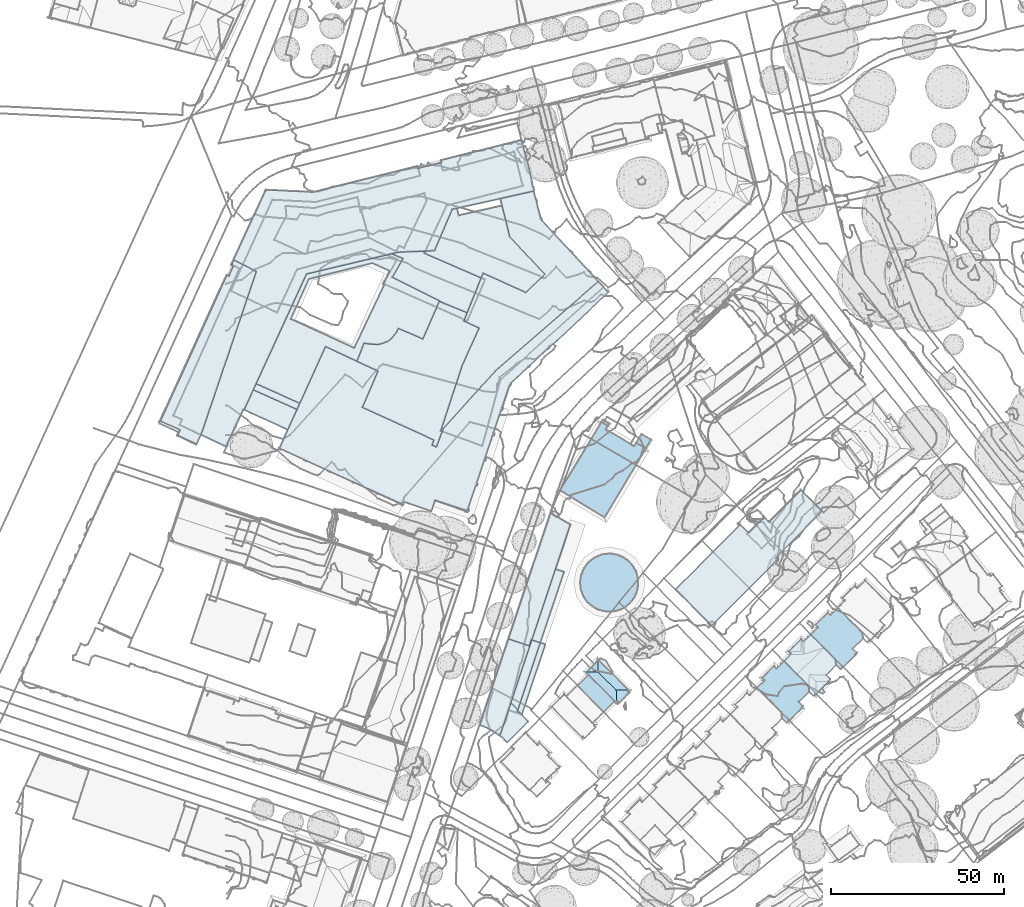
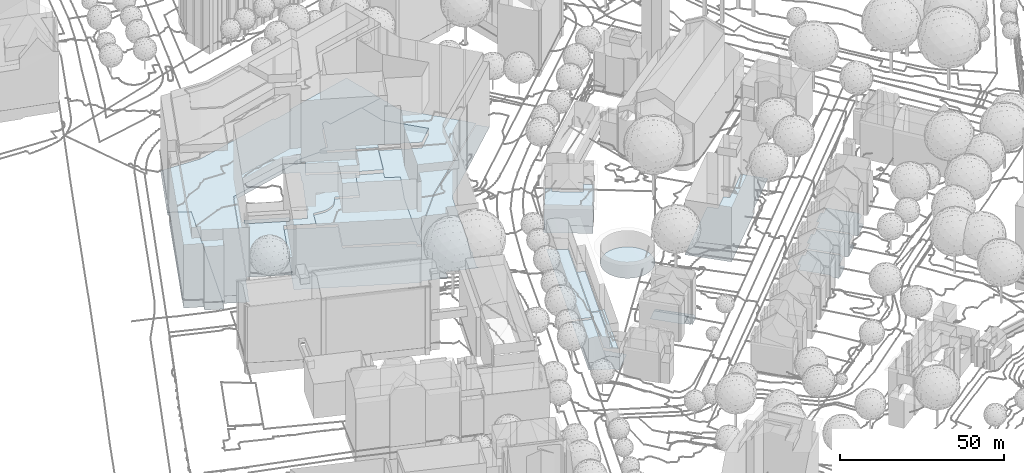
# Not in any storey, part 3 of 477: 9 footings.
"""IFC4 building model written with IfcOpenShell, lengths in metres."""

from ifc_helpers import new_model, si_unit, frame, origin_with_axes, place, context, subcontext, project, spatial, polygons, element, save


model = new_model("IFC4")

# Units and contexts
model_context = context("Model", 3, precision=1e-05, world=origin_with_axes())
body_context = subcontext(model_context, "Body", "Model", "MODEL_VIEW")
ifc_project = project(units=[si_unit("AREAUNIT", "SQUARE_METRE"), si_unit("LENGTHUNIT", "METRE")], contexts=[model_context])

# Sites, building
site_1_placement = place(None, origin_with_axes())
site_1 = spatial("IfcSite", under=ifc_project, at=site_1_placement, Name="Topoexport Site")
site_2_placement = place(site_1_placement, origin_with_axes())
site_2 = spatial("IfcSite", under=site_1, at=site_2_placement, Name="TPX_BUILDINGS")
building_1_placement = place(site_2_placement, frame((129.1307320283, 172.8855160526, 527.2133), z_axis=(0.0, 0.0, 1.0), x_axis=(1.0, 0.0, 0.0)))
building_1 = spatial("IfcBuilding", under=site_2, at=building_1_placement, Name="Building 41", CompositionType="ELEMENT")

# Footing
footing_1_placement = place(None, frame((129.1307320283, 172.8855160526, 527.2133), z_axis=(0.0, 0.0, 1.0), x_axis=(1.0, 0.0, 0.0)))
element("IfcFooting", 1, at=footing_1_placement, inside=building_1, Name="Floor 0", context=body_context, shape_type="Tessellation", body=[
    polygons([(27.1359999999, 19.4952000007, 0.0), (36.2619999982, 28.6290000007, 0.0), (42.3549999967, 22.5430000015, 0.0), (29.0059999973, 9.183600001, 0.0), (29.5369999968, 8.6513999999, 0.0), (29.1419999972, 8.2696000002, 0.0), (21.2709999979, 16.4589999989, 0.0), (26.9079999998, 19.6407000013, 0.0), (25.682, 20.875, 0.0), (26.9489999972, 19.6816999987, 0.0), (10.4670000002, -10.4569999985, 0.0), (29.1589999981, 8.2520000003, 0.0), (0.0, 0.0, 0.0), (18.7049999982, 18.7236999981, 0.0), (21.0179999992, 16.3916999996, 0.0), (21.1789999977, 16.5507999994, 0.0)], [[[1, 2, 3]], [[3, 4, 1]], [[5, 6, 4]], [[1, 7, 8]], [[9, 8, 7]], [[8, 10, 1]], [[1, 4, 7]], [[11, 7, 4]], [[6, 11, 4]], [[11, 6, 12]], [[11, 13, 7]], [[13, 14, 15]], [[15, 7, 13]], [[7, 15, 16]]]),
])

# Building
building_2_placement = place(site_2_placement, frame((168.236732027, 159.8387160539, 531.4768), z_axis=(0.0, 0.0, 1.0), x_axis=(1.0, 0.0, 0.0)))
building_2 = spatial("IfcBuilding", under=site_2, at=building_2_placement, Name="Building 76", CompositionType="ELEMENT")

# Footing
footing_2_placement = place(None, frame((168.236732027, 159.8387160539, 531.4768), z_axis=(0.0, 0.0, 1.0), x_axis=(1.0, 0.0, 0.0)))
element("IfcFooting", 2, at=footing_2_placement, inside=building_2, Name="Floor 0", context=body_context, shape_type="Tessellation", body=[
    polygons([(5.688000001, 5.6512999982, 0.0), (5.7349999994, 5.6981999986, 0.0), (15.1840000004, -1.0703000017, 0.0), (12.1510000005, -4.0655000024, 0.0), (4.9710000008, 6.3729999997, 0.0), (2.1400000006, 2.1268999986, 0.0), (1.4529999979, 2.8192999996, 0.0), (1.3990000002, 2.873999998, 0.0), (2.0170000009, 2.0048999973, 0.0), (3.7619999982, -3.8115000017, 0.0), (0.824000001, 0.8192999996, 0.0), (0.0, 0.0, 0.0), (11.4100000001, -7.4043000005, 0.0), (2.0579999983, 2.0449000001, 0.0), (7.7809999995, 7.7303999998, 0.0), (11.5669999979, 3.8954999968, 0.0), (14.8770000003, 0.5409999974, 0.0), (12.8709999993, -5.7432000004, 0.0), (12.9759999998, -5.8487000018, 0.0), (13.3440000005, -5.2735000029, 0.0), (7.0720000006, -7.1641000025, 0.0), (9.0819999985, -9.505900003, 0.0), (7.3669999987, -8.7871000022, 0.0), (9.4109999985, -9.3877000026, 0.0), (9.1860000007, -9.6123000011, 0.0), (8.574000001, -10.009800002, 0.0)], [[[1, 2, 3]], [[1, 4, 5]], [[6, 7, 5]], [[6, 5, 4]], [[8, 5, 7]], [[9, 10, 11]], [[12, 11, 10]], [[13, 9, 14]], [[6, 13, 14]], [[2, 15, 16]], [[17, 3, 16]], [[1, 3, 4]], [[6, 4, 13]], [[13, 4, 18]], [[18, 19, 13]], [[18, 4, 20]], [[13, 10, 9]], [[21, 10, 13]], [[22, 23, 21]], [[24, 25, 22]], [[22, 21, 24]], [[26, 23, 22]], [[21, 13, 24]], [[16, 3, 2]]]),
])

# Building
building_3_placement = place(site_2_placement, frame((152.792732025, 144.4969160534, 530.4589), z_axis=(0.0, 0.0, 1.0), x_axis=(1.0, 0.0, 0.0)))
building_3 = spatial("IfcBuilding", under=site_2, at=building_3_placement, Name="Building 77", CompositionType="ELEMENT")

# Footing
footing_3_placement = place(None, frame((152.792732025, 144.4969160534, 530.4589), z_axis=(0.0, 0.0, 1.0), x_axis=(1.0, 0.0, 0.0)))
element("IfcFooting", 3, at=footing_3_placement, inside=building_3, Name="Floor 0", context=body_context, shape_type="Tessellation", body=[
    polygons([(6.9670000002, 6.9208999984, 0.0), (7.7600000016, 7.7080000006, 0.0), (11.4990000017, 3.9199000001, 0.0), (5.5789999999, 5.5409999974, 0.0), (11.9930000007, -4.1270000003, 0.0), (2.0360000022, 2.0214999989, 0.0), (4.8600000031, 6.2635999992, 0.0), (1.4649999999, 2.8827999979, 0.0), (1.9040000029, 2.1543000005, 0.0), (1.3220000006, 2.7412, 0.0), (0.0, 0.0, 0.0), (3.7160000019, -3.7655999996, 0.0), (15.0250000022, -1.134800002, 0.0), (14.8100000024, 0.5673999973, 0.0), (13.2320000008, -5.3819000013, 0.0), (12.7850000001, -5.8262000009, 0.0), (7.0250000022, -7.1172000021, 0.0), (12.8900000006, -5.9326000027, 0.0), (12.7840000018, -6.0371000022, 0.0), (9.3020000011, -9.4970999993, 0.0), (8.9810000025, -9.6044999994, 0.0), (7.0860000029, -8.1914000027, 0.0), (7.2149999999, -8.8447000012, 0.0), (8.4680000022, -10.1132999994, 0.0), (9.0870000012, -9.7109999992, 0.0)], [[[1, 2, 3]], [[1, 3, 4]], [[5, 6, 4]], [[7, 6, 8]], [[8, 9, 10]], [[9, 8, 6]], [[11, 6, 12]], [[4, 6, 7]], [[5, 12, 6]], [[3, 5, 4]], [[13, 5, 14]], [[15, 16, 5]], [[17, 12, 5]], [[18, 19, 16]], [[5, 16, 19]], [[19, 17, 5]], [[20, 21, 22]], [[22, 17, 20]], [[22, 21, 23]], [[24, 23, 21]], [[21, 20, 25]], [[19, 20, 17]], [[3, 14, 5]]]),
])

# Building
building_4_placement = place(site_2_placement, frame((95.7557320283, 201.4705160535, 529.7781), z_axis=(0.0, 0.0, 1.0), x_axis=(1.0, 0.0, 0.0)))
building_4 = spatial("IfcBuilding", under=site_2, at=building_4_placement, Name="Building 138", CompositionType="ELEMENT")

# Footing
footing_4_placement = place(None, frame((95.7557320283, 201.4705160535, 529.7781), z_axis=(0.0, 0.0, 1.0), x_axis=(1.0, 0.0, 0.0)))
element("IfcFooting", 4, at=footing_4_placement, inside=building_4, Name="Floor 0", context=body_context, shape_type="Tessellation", body=[
    polygons([(14.1559999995, 19.2773999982, 0.0), (13.9899999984, 18.995099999, 0.0), (14.0029999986, 19.3642999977, 0.0), (13.7899999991, 18.6562999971, 0.0), (13.6099999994, 18.3506000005, 0.0), (12.2919999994, 20.3330000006, 0.0), (0.0, 0.0, 0.0), (0.3019999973, 0.4726999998, 0.0), (0.3530000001, -0.2158000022, 0.0), (14.305999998, 16.9726999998, 0.0), (13.186999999, 17.6308999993, 0.0), (11.443, 18.9247999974, 0.0), (13.7209999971, 17.3173999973, 0.0), (23.5359999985, 16.2520000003, 0.0), (23.7709999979, 16.1142999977, 0.0), (22.0429999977, 13.7372999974, 0.0), (24.9539999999, 12.3808999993, 0.0), (24.6569999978, 11.8817999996, 0.0), (26.2989999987, 14.6358000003, 0.0), (13.5079999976, -6.817400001, 0.0), (12.8699999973, -7.8887000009, 0.0), (20.8969999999, 13.0937999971, 0.0), (21.4659999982, 12.7588, 0.0), (24.2789999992, 11.2480999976, 0.0)], [[[1, 2, 3]], [[4, 3, 2]], [[3, 5, 6]], [[5, 3, 4]], [[7, 8, 9]], [[8, 10, 9]], [[5, 11, 12]], [[12, 6, 5]], [[13, 8, 11]], [[11, 8, 12]], [[8, 13, 10]], [[14, 15, 16]], [[15, 17, 16]], [[18, 16, 17]], [[17, 15, 19]], [[20, 21, 9]], [[22, 20, 10]], [[22, 23, 20]], [[9, 10, 20]], [[24, 23, 18]], [[20, 23, 24]], [[23, 16, 18]]]),
])

# Building
building_5_placement = place(site_2_placement, frame((-19.7342679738, 221.4617160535, 529.9572), z_axis=(0.0, 0.0, 1.0), x_axis=(1.0, 0.0, 0.0)))
building_5 = spatial("IfcBuilding", under=site_2, at=building_5_placement, Name="Building 139", CompositionType="ELEMENT")

# Footing
footing_5_placement = place(None, frame((-19.7342679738, 221.4617160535, 529.9572), z_axis=(0.0, 0.0, 1.0), x_axis=(1.0, 0.0, 0.0)))
element("IfcFooting", 5, at=footing_5_placement, inside=building_5, Name="Floor 0", context=body_context, shape_type="Tessellation", body=[
    polygons([(34.444000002, -7.6933000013, -0.394), (35.0250000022, -8.1308000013, -0.394), (34.5089999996, -7.813500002, -0.394), (34.4499999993, -7.9404000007, -0.394), (34.9979999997, -8.1894000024, -0.394), (41.5960000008, -11.1592000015, -0.394), (36.8099999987, -2.4404000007, -0.394), (58.3509999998, 4.0194999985, -0.394), (42.1409999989, -11.4081999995, -0.394), (48.568, -14.3349000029, -0.394), (62.8740000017, 14.4862999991, -0.394), (47.6970000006, 21.5683999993, -0.394), (49.1140000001, -14.5849000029, -0.394), (79.0159999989, -5.4209000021, -0.394), (78.4660000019, -6.9248000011, -0.394), (70.4990000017, -23.3144000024, -0.394), (70.1220000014, -24.0849000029, -0.394), (71.9290000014, -23.808600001, -0.394), (79.7529999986, -7.4209000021, -0.394), (79.3350000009, -22.817400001, -0.3941), (70.6229999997, -23.3515000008, -0.394), (78.8260000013, -24.4990000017, -0.3941), (78.3060000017, -26.0146000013, -0.3941), (88.8300000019, -25.4189000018, -0.3941), (89.0289999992, -26.0039000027, -0.3941), (91.3289999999, -17.9756000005, -0.3941), (93.5879999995, -11.2509000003, -0.3941), (91.6840000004, -18.0947000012, -0.3941), (91.1390000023, -18.5419999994, -0.3941), (89.1909999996, -25.5224000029, -0.3941), (91.493999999, -18.6611000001, -0.3941), (81.7349999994, -2.0937000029, -0.394), (96.2259999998, -3.3896000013, -0.394), (111.9279999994, 20.9726999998, -0.394), (106.7419999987, 16.1543000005, -0.394), (96.7809999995, 14.5419999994, -0.394), (112.3680000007, 21.3818999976, -0.394), (106.3029999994, 15.7460999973, -0.394), (101.2219999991, 11.0253999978, -0.394), (106.4310000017, 15.6094000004, -0.394), (106.8669999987, 16.0194999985, -0.394), (100.881000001, 10.4784999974, -0.394), (129.126000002, 37.6376999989, -0.394), (114.6420000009, 23.3418000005, -0.394), (126.5549999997, 40.4219000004, -0.394), (129.5850000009, 37.4101999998, -0.394), (129.2580000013, 37.7588, -0.394), (112.4580000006, 21.2851999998, -0.394), (112.0210000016, 20.8730999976, -0.394), (96.0350000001, -3.9590000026, -0.394), (96.5800000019, -3.5088, -0.394), (96.3920000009, -4.0780999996, -0.394), (94.1390000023, -10.7861000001, -0.3941), (93.9479999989, -11.3553999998, -0.3941), (93.7789999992, -10.6816000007, -0.3941), (101.3260000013, 10.8027999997, -0.394), (101.1600000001, 10.3007999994, -0.394), (101.4239999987, 10.8944999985, -0.394), (98.4649999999, 3.2802999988, -0.394), (98.9919999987, 3.7362999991, -0.394), (98.8040000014, 3.1659999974, -0.394), (98.6559999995, 3.8486999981, -0.394), (39.4600000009, 3.4032999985, 16.5544), (27.637000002, 10.8427999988, 16.5544), (40.2659999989, 5.1796999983, 16.5544), (26.8220000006, 9.0702999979, 16.5544), (11.6130000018, -3.942400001, 0.039), (11.6999999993, -3.9150000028, 0.039), (11.6739999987, -3.9697000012, 0.039), (18.9409999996, -7.0908000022, 0.039), (18.8709999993, -7.2451000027, 0.039), (12.1909999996, -2.5859000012, 0.039), (20.4820000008, 45.2929999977, 0.039), (21.1920000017, 46.6327999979, 0.039), (20.563000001, 45.2509999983, 0.039), (30.3630000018, 66.7001999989, 0.0391), (30.4719999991, 66.6503999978, 0.0391), (27.6909999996, 43.2763999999, 0.039), (43.938000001, 66.2685999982, 0.039), (42.2120000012, 42.5849999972, 0.039), (19.2970000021, -6.4814000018, 0.039), (23.9200000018, 3.4208999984, 0.039), (19.074000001, -7.0419999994, 0.039), (19.4780000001, -6.567400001, 0.039), (21.4849999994, -1.7050999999, 0.039), (19.2290000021, -7.1132999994, 0.039), (21.7340000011, -1.1601000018, 0.039), (21.6669999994, -1.7881000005, 0.039), (21.9160000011, -1.2441000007, 0.039), (24.1752000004, 3.3046000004, 0.039), (68.7569999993, 48.8818999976, 0.039), (44.495000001, 66.3213, 0.039), (30.561999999, 66.7206999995, 0.0391), (30.569000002, 66.8905999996, 0.0391), (74.1889999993, 73.7372999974, 0.039), (84.3440000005, 61.2782999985, 0.039), (74.3540000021, 73.0761999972, 0.039), (81.2290000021, 74.7939999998, 0.039), (104.1409999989, 81.2187999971, 0.039), (81.0639999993, 75.4550999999, 0.039), (79.2180000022, 49.3017999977, 0.039), (104.1779999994, 81.0683999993, 0.039), (107.7010000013, 67.6132999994, 0.039), (107.8509999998, 66.7372999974, 0.039), (107.3090000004, 69.1358000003, 0.039), (107.819000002, 67.6425999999, 0.039), (107.8990000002, 66.5478999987, 0.039), (108.0210000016, 66.7851999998, 0.039), (104.3029999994, 80.9824000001, 0.039), (105.932, 75.1415999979, 0.039), (104.4680000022, 81.0233999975, 0.039), (106.0489999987, 75.1708999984, 0.039), (107.4589999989, 69.1728999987, 0.039), (21.1510000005, 44.9199000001, 0.0), (21.1920000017, 46.6327999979, 0.0), (27.6909999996, 43.2763999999, 0.0), (21.0109999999, 44.6132999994, 0.0), (19.925999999, 42.2402999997, 0.0), (20.9550000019, 44.6386999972, 0.0), (20.5399999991, 45.1992000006, 0.0), (19.8650000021, 42.2675999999, 0.0), (19.800999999, 41.9657999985, 0.0), (5.6550000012, -2.4844000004, 0.0), (12.1909999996, -2.5859000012, 0.0), (10.8949999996, -5.6279000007, 0.0), (10.4470000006, -6.5820000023, 0.0), (4.993999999, -4.1132999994, 0.0), (19.1960000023, 42.2412, 0.0), (0.0, 0.0, 0.0), (42.9310000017, 41.1591999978, 1.0229), (41.254999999, 37.4902999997, 1.0229), (42.2120000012, 42.5849999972, 1.0229), (61.2309999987, 45.7196999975, 1.0229), (66.7919999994, 48.4159999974, 1.0229), (24.1920000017, 3.3427999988, 1.0229), (37.6339999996, 29.5654000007, 1.0229), (62.1469999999, 45.307599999, 1.0229), (66.2280000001, 43.4706999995, 1.0229), (70.0720000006, 47.0185999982, 1.0229), (67.0240000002, 41.6210999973, 1.0229), (65.6649999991, 42.2432000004, 1.0229), (124.3559999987, 43.0693999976, 0.1909), (123.8159999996, 43.3896999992, 0.1909), (123.9479999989, 43.5117000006, 0.1909), (119.006000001, 48.5733000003, 0.1909), (118.7250000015, 49.1279000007, 0.1909), (119.1409999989, 48.6972999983, 0.1909), (124.2320000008, 42.936499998, 0.1909), (111.1070000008, 42.5205000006, 0.1909), (113.9160000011, 54.3388999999, 0.191), (113.3709999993, 54.6552999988, 0.191), (113.5040000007, 54.7782999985, 0.191), (126.5549999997, 40.4219000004, 0.1909), (108.8790000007, 63.4765999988, 0.191), (108.5390000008, 64.0155999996, 0.191), (108.7199999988, 64.061499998, 0.191), (98.2540000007, 64.3896999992, 0.191), (107.8990000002, 66.5478999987, 0.191), (108.6920000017, 63.4228999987, 0.191), (110.2879999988, 58.2821999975, 0.191), (110.2960000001, 58.2743999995, 0.191), (110.194000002, 58.0937999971, 0.191), (110.0650000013, 58.7206999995, 0.191), (110.2820000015, 58.3037, 0.191), (109.9059999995, 58.6376999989, 0.191), (105.5940000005, 37.2460999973, 0.1909), (113.7879999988, 54.2060999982, 0.191), (118.5930000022, 49.0058999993, 0.1909), (80.9890000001, -2.8291000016, 0.1909), (81.7349999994, -2.0937000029, 0.1909), (81.4059999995, -2.9794999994, 0.1909), (87.1979999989, 16.0946999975, 0.1909), (96.7809999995, 14.5419999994, 0.1909), (92.0879999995, 26.932599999, 0.1909), (100.9539999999, 53.3720999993, 0.191), (110.3449999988, 58.1855999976, 0.191), (87.6849999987, 28.9853999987, 0.1909), (93.2239999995, 42.7812999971, 0.191), (88.6400000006, 31.3632999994, 0.3799), (87.6849999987, 28.9853999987, 0.3799), (80.6079999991, 34.6552999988, 0.3799), (92.0879999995, 26.932599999, 0.3799), (87.1979999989, 16.0946999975, 0.3799), (75.8379999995, 23.7997999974, 0.3799), (68.2120000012, 25.7734999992, 0.3799), (68.7309999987, 26.8300999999, 0.3799), (67.5040000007, 24.8407999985, 0.3799), (66.6460000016, 23.8222999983, 0.3799), (65.6350000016, 23.0956999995, 0.3799), (62.8740000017, 14.4862999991, 0.3799), (80.9890000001, -2.8291000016, 0.3799), (64.0949999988, 22.4912, 0.3799), (81.4059999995, -2.9794999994, 0.3799), (79.0159999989, -5.4209000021, 0.3799), (79.7529999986, -7.4209000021, 0.3799), (78.4660000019, -6.9248000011, 0.3799), (58.3509999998, 4.0194999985, 0.3799), (62.8170000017, 22.1816999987, 0.3799), (60.2910000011, 22.3642999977, 0.3799), (56.7750000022, 17.3319999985, 0.3799), (58.8210000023, 22.557599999, 0.3799), (68.7569999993, 48.8817999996, 1.6538), (70.0720000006, 47.0185999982, 1.6538), (66.7919999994, 48.4159999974, 1.6538), (76.2760000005, 48.5654000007, 1.6538), (67.0240000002, 41.6210999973, 1.6538), (76.5700000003, 49.1963, 1.6538), (92.6770000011, 41.4179999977, 1.6538), (88.6400000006, 31.3632999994, 1.6538), (82.0540000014, 34.061499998, 1.6538), (47.6970000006, 21.5683999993, 1.0229), (36.8099999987, -2.4404000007, 1.0229), (26.2149999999, 2.3779000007, 1.0229), (56.0040000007, 21.1737999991, 1.0229), (56.7750000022, 17.3319999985, 1.0229), (58.8210000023, 22.557599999, 1.0229), (60.2910000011, 22.3642999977, 1.0229), (62.8170000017, 22.1816999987, 1.0229), (65.6350000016, 23.0956999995, 1.0229), (64.0949999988, 22.4912, 1.0229), (68.7309999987, 26.8300999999, 1.0229), (66.6460000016, 23.8222999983, 1.0229), (67.5040000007, 24.8407999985, 1.0229), (64.6490000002, 39.3603999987, 1.0229), (64.6040000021, 39.5673999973, 1.0229), (64.5340000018, 39.4131000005, 1.0229), (64.7589999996, 40.2655999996, 1.0229), (64.4000000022, 39.7705000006, 1.0229), (64.5540000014, 39.7001999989, 1.0229), (64.6500000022, 40.316399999, 1.0229), (68.2120000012, 25.7734999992, 1.0229), (80.6079999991, 34.6552999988, 1.0229), (75.8379999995, 23.7997999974, 1.0229), (82.0540000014, 34.061499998, 1.0229), (100.9539999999, 53.3720999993, 2.3998), (93.2239999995, 42.7812999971, 2.3997), (86.2050000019, 59.5146999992, 2.3998), (111.1070000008, 42.5205000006, 2.3997), (105.5940000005, 37.2460999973, 2.3997), (98.7540000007, 62.3506000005, 2.3998), (92.6770000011, 41.4179999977, 2.3997), (79.2180000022, 49.3017999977, 2.3998), (76.2760000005, 48.5654000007, 2.3998), (76.5700000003, 49.1963, 2.3998), (84.3440000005, 61.2782999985, 2.3998), (85.7230000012, 61.5859999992, 2.3998)], [[[1, 2, 3]], [[3, 2, 4]], [[5, 4, 2]], [[6, 2, 7]], [[8, 9, 6]], [[2, 1, 7]], [[10, 9, 8]], [[7, 11, 8]], [[11, 7, 12]], [[8, 13, 10]], [[13, 8, 14]], [[14, 15, 13]], [[6, 7, 8]], [[13, 16, 17]], [[18, 19, 20]], [[21, 19, 18]], [[18, 22, 23]], [[20, 24, 25]], [[20, 22, 18]], [[16, 19, 21]], [[26, 20, 27]], [[26, 28, 29]], [[20, 26, 29]], [[19, 27, 20]], [[29, 24, 20]], [[30, 25, 24]], [[28, 31, 29]], [[16, 15, 19]], [[15, 16, 13]], [[19, 32, 33]], [[34, 35, 36]], [[36, 37, 34]], [[35, 38, 36]], [[39, 36, 38]], [[40, 38, 41]], [[35, 41, 38]], [[39, 42, 36]], [[43, 44, 45]], [[46, 43, 47]], [[46, 44, 43]], [[48, 49, 34]], [[34, 37, 48]], [[44, 37, 36]], [[36, 45, 44]], [[50, 51, 52]], [[51, 50, 33]], [[50, 19, 33]], [[27, 53, 54]], [[53, 27, 55]], [[27, 19, 55]], [[50, 55, 19]], [[42, 56, 57]], [[42, 39, 56]], [[58, 56, 39]], [[59, 60, 61]], [[60, 59, 62]], [[59, 32, 62]], [[32, 59, 33]], [[36, 42, 62]], [[36, 62, 32]], [[63, 64, 65]], [[64, 63, 66]], [[67, 68, 69]], [[68, 70, 71]], [[68, 72, 70]], [[72, 68, 67]], [[73, 74, 75]], [[74, 76, 77]], [[74, 77, 78]], [[78, 79, 80]], [[72, 81, 70]], [[73, 76, 74]], [[72, 78, 82]], [[83, 81, 84]], [[83, 70, 81]], [[72, 85, 81]], [[86, 83, 84]], [[87, 88, 85]], [[89, 88, 87]], [[72, 82, 87]], [[90, 82, 80]], [[91, 80, 92]], [[80, 82, 78]], [[87, 85, 72]], [[78, 77, 93]], [[94, 79, 93]], [[79, 78, 93]], [[91, 92, 95]], [[79, 92, 80]], [[96, 91, 97]], [[91, 95, 97]], [[98, 99, 96]], [[96, 97, 98]], [[98, 100, 99]], [[101, 91, 96]], [[96, 99, 102]], [[103, 104, 105]], [[106, 104, 103]], [[96, 104, 107]], [[104, 106, 108]], [[96, 105, 104]], [[109, 110, 102]], [[111, 110, 109]], [[112, 113, 105]], [[110, 112, 105]], [[96, 110, 105]], [[96, 102, 110]], [[114, 115, 116]], [[116, 117, 114]], [[117, 118, 119]], [[118, 117, 116]], [[120, 115, 114]], [[121, 119, 118]], [[122, 118, 116]], [[123, 122, 124]], [[124, 125, 123]], [[126, 123, 125]], [[126, 127, 123]], [[123, 128, 122]], [[128, 123, 129]], [[122, 116, 124]], [[130, 131, 132]], [[130, 132, 133]], [[134, 133, 132]], [[135, 131, 136]], [[132, 131, 135]], [[134, 137, 133]], [[138, 137, 139]], [[134, 139, 137]], [[139, 140, 138]], [[141, 138, 140]], [[142, 143, 144]], [[145, 146, 147]], [[148, 149, 143]], [[150, 151, 152]], [[142, 148, 143]], [[149, 148, 153]], [[154, 155, 156]], [[155, 157, 158]], [[159, 155, 154]], [[160, 161, 162]], [[163, 164, 165]], [[160, 162, 164]], [[159, 157, 155]], [[166, 149, 153]], [[145, 143, 149]], [[149, 167, 168]], [[168, 145, 149]], [[169, 170, 171]], [[170, 172, 173]], [[170, 169, 172]], [[173, 174, 166]], [[166, 153, 173]], [[173, 172, 174]], [[149, 151, 167]], [[165, 164, 162]], [[162, 175, 165]], [[161, 176, 162]], [[175, 162, 151]], [[167, 151, 150]], [[177, 178, 174]], [[157, 165, 175]], [[175, 151, 149]], [[174, 178, 166]], [[157, 159, 165]], [[146, 145, 168]], [[179, 180, 181]], [[182, 183, 180]], [[180, 184, 181]], [[180, 183, 184]], [[184, 185, 186]], [[184, 187, 185]], [[187, 184, 188]], [[189, 188, 190]], [[188, 184, 190]], [[183, 191, 184]], [[191, 190, 184]], [[190, 192, 189]], [[193, 194, 191]], [[191, 194, 190]], [[195, 196, 194]], [[194, 193, 195]], [[194, 197, 190]], [[190, 198, 192]], [[190, 199, 198]], [[200, 201, 199]], [[200, 199, 190]], [[202, 203, 204]], [[203, 205, 206]], [[205, 203, 202]], [[205, 202, 207]], [[208, 209, 210]], [[210, 205, 208]], [[210, 206, 205]], [[211, 212, 213]], [[213, 135, 136]], [[211, 213, 136]], [[136, 214, 211]], [[214, 215, 211]], [[216, 215, 214]], [[217, 140, 218]], [[219, 220, 221]], [[222, 219, 223]], [[220, 218, 221]], [[217, 216, 224]], [[214, 224, 216]], [[225, 224, 226]], [[227, 224, 225]], [[228, 227, 229]], [[229, 227, 225]], [[228, 230, 227]], [[227, 141, 140]], [[221, 231, 223]], [[219, 221, 223]], [[232, 233, 221]], [[232, 221, 140]], [[224, 227, 140]], [[232, 140, 234]], [[221, 218, 140]], [[140, 217, 224]], [[235, 236, 237]], [[236, 238, 239]], [[238, 236, 235]], [[240, 235, 237]], [[241, 242, 236]], [[243, 244, 242]], [[242, 241, 243]], [[245, 246, 237]], [[237, 242, 245]], [[237, 236, 242]]]),
])

# Building
building_6_placement = place(site_2_placement, frame((101.6207320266, 174.7557160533, 529.8231), z_axis=(0.0, 0.0, 1.0), x_axis=(1.0, 0.0, 0.0)))
building_6 = spatial("IfcBuilding", under=site_2, at=building_6_placement, Name="Building 140", CompositionType="ELEMENT")

# Footing
footing_6_placement = place(None, frame((101.6207320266, 174.7557160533, 529.8231), z_axis=(0.0, 0.0, 1.0), x_axis=(1.0, 0.0, 0.0)))
element("IfcFooting", 6, at=footing_6_placement, inside=building_6, Name="Floor 0", context=body_context, shape_type="Tessellation", body=[
    polygons([(6.9660000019, -8.2206999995, -0.0001), (5.1420000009, -7.683600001, -0.0001), (8.4250000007, -8.3399000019, -0.0001), (7.6920000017, -8.3125, -0.0001), (11.6020000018, -7.6845999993, -0.0001), (11.2859999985, -7.8183999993, -0.0001), (10.5899999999, -8.0419999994, -0.0001), (9.8770000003, -8.2041000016, -0.0001), (9.1530000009, -8.3037, -0.0001), (11.9600000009, -7.5342000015, -0.0001), (12.6059999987, -7.192400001, -0.0001), (6.2509999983, -8.067400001, -0.0001), (1.5370000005, -4.8027999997, -0.0001), (0.5179999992, -2.8662, 0.0), (2.4829999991, -5.9189999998, -0.0001), (1.9849999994, -5.3808999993, -0.0001), (3.6070000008, -6.8516000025, -0.0001), (4.8759999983, -7.5752000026, -0.0001), (4.2250000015, -7.2412, -0.0001), (3.0240000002, -6.4101999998, -0.0001), (16.2630000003, -2.7774000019, -0.0001), (0.6750000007, 3.311499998, 0.0), (5.5529999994, -7.8506000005, -0.0001), (13.2199999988, -6.7959000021, -0.0001), (13.7980000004, -6.3467000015, -0.0001), (14.3339999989, -5.8496000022, -0.0001), (15.6550000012, -4.1044999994, -0.0001), (15.2659999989, -4.7237000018, -0.0001), (14.824000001, -5.3067000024, -0.0001), (15.9880000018, -3.4550999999, -0.0001), (16.6319999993, -1.3643000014, -0.0001), (16.4789999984, -2.0782000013, -0.0001), (16.7230000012, -0.6377000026, -0.0001), (16.75, 0.0887999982, -0.0001), (16.0769999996, 3.3085999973, -0.0001), (16.4519999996, 2.2547999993, -0.0001), (16.6130000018, 1.5449000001, -0.0001), (16.7129999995, 0.8231999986, -0.0001), (16.2280000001, 2.9492000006, -0.0001), (5.4890000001, 7.8993999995, 0.0), (15.6059999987, 4.2655999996, -0.0001), (15.9459999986, 3.6210999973, -0.0001), (1.1420000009, -4.1875, -0.0001), (0.1330000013, -1.4550999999, 0.0), (0.2950000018, -2.1689999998, 0.0), (0.0, 0.0, 0.0), (0.1220000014, 1.4569999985, 0.0), (0.0289999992, 0.7313999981, 0.0), (0.0350000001, -0.7314999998, 0.0), (0.2769999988, 2.1717999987, 0.0), (1.4979999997, 4.816399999, 0.0), (1.1070000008, 4.1972000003, 0.0), (0.7719999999, 3.5467999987, 0.0), (2.4349999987, 5.9404000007, 0.0), (3.5500000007, 6.8817999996, 0.0), (2.9719999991, 6.4344999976, 0.0), (1.9409999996, 5.3983999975, 0.0), (0.493999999, 2.870099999, 0.0), (4.1660000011, 7.2773000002, 0.0), (13.1499999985, 6.9199000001, -0.0001), (11.2129999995, 7.9188999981, 0.0), (12.5340000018, 7.3085999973, 0.0), (11.8859999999, 7.6424999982, 0.0), (13.7300000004, 6.4794999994, -0.0001), (14.7650000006, 5.4540999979, -0.0001), (15.2109999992, 4.8779000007, -0.0001), (14.2670000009, 5.9921999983, -0.0001), (6.8999999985, 8.2811999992, 0.0), (6.1860000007, 8.1210999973, 0.0), (8.3520000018, 8.4131000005, 0.0), (7.625, 8.378899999, 0.0), (9.8040000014, 8.2909999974, 0.0), (10.5159999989, 8.1356999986, 0.0), (9.0810000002, 8.3827999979, 0.0), (4.8139999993, 7.6171999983, 0.0), (0.800999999, -3.5401000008, -0.0001)], [[[1, 2, 3]], [[3, 4, 1]], [[5, 3, 2]], [[6, 7, 5]], [[3, 5, 8]], [[3, 8, 9]], [[5, 7, 8]], [[10, 5, 11]], [[2, 1, 12]], [[13, 14, 15]], [[15, 16, 13]], [[2, 14, 5]], [[17, 15, 2]], [[2, 18, 19]], [[15, 17, 20]], [[2, 19, 17]], [[21, 5, 22]], [[23, 2, 12]], [[15, 14, 2]], [[24, 5, 25]], [[25, 5, 26]], [[5, 24, 11]], [[21, 27, 28]], [[28, 29, 21]], [[30, 27, 21]], [[26, 5, 29]], [[21, 29, 5]], [[21, 31, 32]], [[33, 31, 34]], [[31, 21, 34]], [[35, 36, 37]], [[38, 34, 37]], [[35, 39, 36]], [[35, 37, 34]], [[34, 21, 35]], [[35, 21, 40]], [[41, 42, 35]], [[14, 13, 43]], [[22, 5, 14]], [[44, 14, 45]], [[14, 44, 46]], [[46, 22, 14]], [[47, 22, 46]], [[46, 48, 47]], [[44, 49, 46]], [[50, 22, 47]], [[40, 21, 22]], [[51, 22, 52]], [[22, 53, 52]], [[22, 51, 54]], [[54, 40, 22]], [[55, 40, 54]], [[54, 56, 55]], [[51, 57, 54]], [[50, 58, 22]], [[59, 40, 55]], [[60, 61, 62]], [[61, 63, 62]], [[60, 64, 61]], [[65, 66, 35]], [[35, 66, 41]], [[35, 67, 65]], [[64, 67, 61]], [[67, 35, 61]], [[68, 40, 69]], [[40, 70, 61]], [[68, 71, 40]], [[72, 73, 61]], [[72, 61, 74]], [[70, 74, 61]], [[71, 70, 40]], [[61, 35, 40]], [[75, 40, 59]], [[43, 76, 14]]]),
])

# Building
building_7_placement = place(site_2_placement, frame((100.8207320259, 145.1316160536, 530.024), z_axis=(0.0, 0.0, 1.0), x_axis=(1.0, 0.0, 0.0)))
building_7 = spatial("IfcBuilding", under=site_2, at=building_7_placement, Name="Building 142", CompositionType="ELEMENT")

# Footing
footing_7_placement = place(None, frame((100.8207320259, 145.1316160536, 530.024), z_axis=(0.0, 0.0, 1.0), x_axis=(1.0, 0.0, 0.0)))
element("IfcFooting", 7, at=footing_7_placement, inside=building_7, Name="Floor 0", context=body_context, shape_type="Tessellation", body=[
    polygons([(3.1640000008, 3.1338, 0.0), (8.800999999, -6.4775000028, 0.0), (0.0, 0.0, 0.0), (3.8530000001, -3.9218000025, 0.0), (10.4810000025, -4.258700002, 0.0), (10.7360000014, -4.5604999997, 0.0), (11.3000000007, -5.0868999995, 0.0), (7.5650000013, -7.701100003, 0.0), (11.2789999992, -5.1103000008, 0.0), (11.2809999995, -5.1084000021, 0.0), (5.8210000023, 7.0322999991, -2.6017), (5.887000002, 3.8427999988, -1.1389), (2.7329999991, 3.9736999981, -2.6377), (11.1380000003, -1.326100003, -1.1389), (14.7740000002, -1.3427000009, -2.8057), (6.1550000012, 7.3632999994, -2.9107), (2.6960000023, 3.6064999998, -2.8407), (2.5309999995, 3.7744999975, -2.8387), (10.4810000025, -4.258700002, -2.9467), (11.2809999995, -5.1084000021, -2.9787), (11.2880000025, -5.1005000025, -2.9707), (11.3680000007, -5.201100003, -2.9817), (11.3000000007, -5.0868999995, -2.9587), (11.2950000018, -5.0927000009, -2.9637), (15.0160000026, -1.5877999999, -3.0267), (14.625, -1.9746000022, -3.0217), (14.2270000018, -2.8916000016, -3.2517), (14.7589999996, -2.1103000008, -3.1427), (13.4570000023, -3.6796000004, -3.2547), (15.0, -2.1015000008, -3.2497), (12.6860000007, -4.4687000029, -3.2567), (11.745000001, -4.8271000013, -2.9857), (11.6590000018, -4.9121000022, -2.9847), (11.8720000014, -4.9550000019, -3.1027), (11.5329999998, -5.0390000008, -2.9837), (11.3920000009, -5.1796000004, -2.9837), (11.9090000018, -5.2627000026, -3.2587), (11.8420000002, -5.196200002, -3.1977)], [[[1, 2, 3]], [[4, 3, 2]], [[1, 5, 2]], [[6, 5, 7]], [[8, 4, 2]], [[6, 2, 5]], [[9, 6, 10]], [[10, 6, 7]], [[11, 12, 13]], [[14, 11, 15]], [[14, 12, 11]], [[11, 16, 15]], [[13, 17, 18]], [[13, 12, 19]], [[14, 19, 12]], [[19, 17, 13]], [[20, 21, 22]], [[23, 22, 24]], [[24, 22, 21]], [[22, 23, 14]], [[19, 14, 23]], [[25, 26, 15]], [[26, 14, 15]], [[27, 26, 28]], [[26, 29, 14]], [[27, 28, 30]], [[27, 29, 26]], [[29, 31, 32]], [[29, 32, 14]], [[32, 33, 14]], [[34, 32, 31]], [[22, 35, 36]], [[33, 35, 14]], [[35, 22, 14]], [[34, 37, 38]], [[37, 34, 31]]]),
])

# Building
building_8_placement = place(site_2_placement, frame((72.548732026, 133.6649160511, 527.8002), z_axis=(0.0, 0.0, 1.0), x_axis=(1.0, 0.0, 0.0)))
building_8 = spatial("IfcBuilding", under=site_2, at=building_8_placement, Name="Building 143", CompositionType="ELEMENT")

# Footing
footing_8_placement = place(None, frame((72.548732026, 133.6649160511, 527.8002), z_axis=(0.0, 0.0, 1.0), x_axis=(1.0, 0.0, 0.0)))
element("IfcFooting", 8, at=footing_8_placement, inside=building_8, Name="Floor 0", context=body_context, shape_type="Tessellation", body=[
    polygons([(14.8660000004, 24.6484000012, 0.0), (15.0529999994, 24.5868999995, 0.0), (14.2789999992, 22.8935000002, 0.0), (5.8420000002, -3.0156999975, 0.0), (0.0, 0.0, 0.0), (8.3060000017, 24.8905999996, 0.0), (0.3110000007, -0.1298999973, 0.0), (0.1180000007, -0.0615999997, 0.0), (2.004999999, -0.807699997, 0.0), (4.6420000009, -2.2696000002, 0.0), (3.8350000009, -1.7656999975, 0.0), (5.4290000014, -2.807699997, 0.0), (5.5399999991, -2.8594000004, 0.0), (0.9810000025, -0.3720999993, 0.0), (1.4600000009, -0.5751999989, 0.0), (0.8139999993, -0.3125, 0.0), (3.0020000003, -1.2978999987, 0.0), (5.8420000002, -3.0156999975, 0.279), (5.8310000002, -3.1142999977, 0.279), (5.6130000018, -2.8974999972, 0.279), (6.5650000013, -3.7099999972, 0.279), (7.2679999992, -4.3409000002, 0.279), (10.8630000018, 3.946200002, 0.279), (14.0480000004, 1.0478000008, 0.279), (7.9409999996, -5.0048999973, 0.279), (8.9759999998, 6.3779000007, 0.279), (11.001000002, 4.3583000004, 0.279), (12.0700000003, 3.076100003, 0.279), (11.3200000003, 3.7939000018, 0.279), (14.2789999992, 22.8935000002, 0.738), (24.131000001, 59.125, 0.738), (14.8660000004, 24.6484000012, 0.738), (8.3060000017, 24.8905999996, 0.738), (20.7420000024, 61.1240000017, 0.738), (22.5040000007, 60.0859000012, 0.738), (26.175999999, 57.9189000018, 0.738), (15.0529999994, 24.5868999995, 0.738), (20.4539999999, 61.2919000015, 0.738), (18.9510000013, 23.2840999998, 1.7849), (11.3200000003, 3.7939000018, 1.7848), (17.493999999, 23.7705000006, 1.7849), (12.069000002, 3.0751000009, 1.7848), (10.8630000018, 3.946200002, 1.7849), (12.1469999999, 2.9970000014, 1.7848), (12.1779999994, 2.9873000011, 1.7848), (17.493999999, 23.7705000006, 1.4999), (21.938000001, 45.0312000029, 1.4999), (24.3370000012, 44.2285000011, 1.4999), (15.0529999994, 24.5868999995, 1.4999), (26.175999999, 57.9189000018, 1.4999), (26.2369999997, 57.8828000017, 1.4999), (17.493999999, 23.7705000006, 1.2579), (8.9759999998, 6.3779000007, 1.2579), (15.0529999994, 24.5868999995, 1.2579), (11.001000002, 4.3583000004, 1.2579)], [[[1, 2, 3]], [[4, 3, 2]], [[5, 6, 7]], [[5, 7, 8]], [[6, 3, 9]], [[10, 11, 3]], [[12, 3, 13]], [[10, 3, 12]], [[4, 13, 3]], [[14, 6, 15]], [[6, 16, 7]], [[6, 14, 16]], [[3, 11, 17]], [[9, 3, 17]], [[6, 9, 15]], [[18, 19, 20]], [[18, 21, 19]], [[22, 21, 23]], [[22, 24, 25]], [[18, 23, 21]], [[26, 27, 23]], [[18, 26, 23]], [[24, 22, 28]], [[23, 29, 28]], [[22, 23, 28]], [[30, 31, 32]], [[31, 30, 33]], [[34, 35, 33]], [[33, 35, 31]], [[36, 37, 32]], [[32, 31, 36]], [[33, 38, 34]], [[39, 40, 41]], [[39, 42, 40]], [[40, 43, 41]], [[42, 39, 44]], [[39, 45, 44]], [[46, 47, 48]], [[46, 49, 47]], [[50, 51, 47]], [[47, 49, 50]], [[52, 53, 54]], [[53, 52, 55]]]),
])

# Building
building_9_placement = place(site_2_placement, frame((160.5527320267, 152.2049160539, 530.9679), z_axis=(0.0, 0.0, 1.0), x_axis=(1.0, 0.0, 0.0)))
building_9 = spatial("IfcBuilding", under=site_2, at=building_9_placement, Name="Building 161", CompositionType="ELEMENT")

# Footing
footing_9_placement = place(None, frame((160.5527320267, 152.2049160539, 530.9679), z_axis=(0.0, 0.0, 1.0), x_axis=(1.0, 0.0, 0.0)))
element("IfcFooting", 9, at=footing_9_placement, inside=building_9, Name="Floor 0", context=body_context, shape_type="Tessellation", body=[
    polygons([(5.0379999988, 6.1162, 0.0), (5.5929999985, 5.556599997, 0.0), (2.8819999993, 4.2949000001, 0.0), (4.8770000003, 6.2773000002, 0.0), (11.4459999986, 3.8222000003, 0.0), (6.8669999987, 6.8231999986, 0.0), (7.6840000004, 7.6338, 0.0), (2.0450000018, 2.0331999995, 0.0), (12.1099999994, -4.058600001, -0.0001), (1.6429999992, 2.4375, 0.0), (1.3940000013, 2.6875, 0.0), (1.3299999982, 2.7528999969, 0.0), (3.7390000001, -3.7881000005, 0.0), (0.0, 0.0, 0.0), (15.050999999, -1.1533000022, -0.0001), (14.756000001, 0.4696999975, -0.0001), (13.3260000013, -5.2901000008, -0.0001), (12.7960000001, -5.8164000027, -0.0001), (11.5379999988, -7.2754000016, -0.0001), (12.9010000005, -5.9219000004, -0.0001), (7.0500000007, -7.1406000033, -0.0001), (9.006000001, -9.5800999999, -0.0001), (8.493999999, -10.0879000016, -0.0001), (7.2650000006, -8.8428000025, -0.0001), (9.1739999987, -9.6240000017, -0.0001), (9.1110000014, -9.6865000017, -0.0001)], [[[1, 2, 3]], [[4, 1, 3]], [[5, 2, 6]], [[6, 7, 5]], [[8, 2, 9]], [[3, 10, 11]], [[12, 3, 11]], [[10, 3, 8]], [[13, 14, 8]], [[2, 8, 3]], [[5, 9, 2]], [[15, 9, 16]], [[17, 18, 9]], [[13, 8, 9]], [[19, 18, 20]], [[9, 18, 19]], [[19, 21, 9]], [[9, 21, 13]], [[22, 23, 24]], [[24, 21, 22]], [[19, 22, 21]], [[22, 19, 25]], [[25, 26, 22]], [[5, 16, 9]]]),
])

save(model, "model.ifc")
